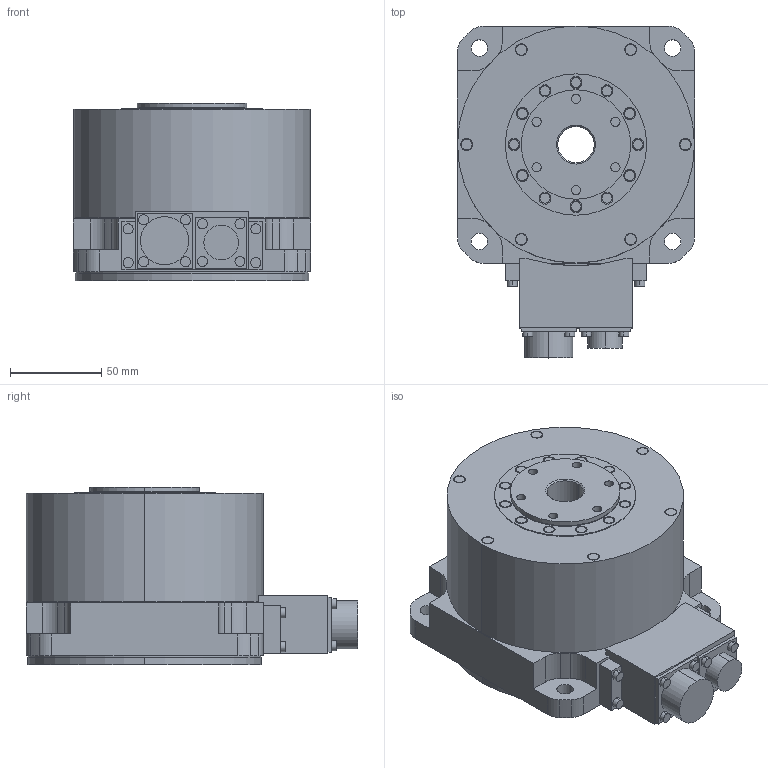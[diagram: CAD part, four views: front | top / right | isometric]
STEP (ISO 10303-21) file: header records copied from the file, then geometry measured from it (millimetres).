
FILE_DESCRIPTION (( 'STEP AP203' ), '1' );
FILE_NAME ('tm-rfm006c20_a.step', '2009-12-04T00:48:22', ( ' ' ), ( '' ), 'SwSTEP 2.0', 'SolidWorks 2006303', '' );
FILE_SCHEMA (( 'CONFIG_CONTROL_DESIGN' ));
Length unit declared in the file: millimetre
Products named in the file (1): tm-rfm006c20_a
Bounding box: 130 x 181.92 x 97.5 mm (x, y, z)
Volume: 1374059.7 mm3; surface area: 106713.1 mm2
Topology: 1 solids, 1 shells, 305 faces, 676 edges, 450 vertices
Faces by surface type: cylinder 185, plane 118, cone 2
Entity records: 8705 total; most frequent: DIRECTION 1662, CARTESIAN_POINT 1432, ORIENTED_EDGE 1352, AXIS2_PLACEMENT_3D 680, EDGE_CURVE 676, VERTEX_POINT 450, EDGE_LOOP 392, CIRCLE 374
